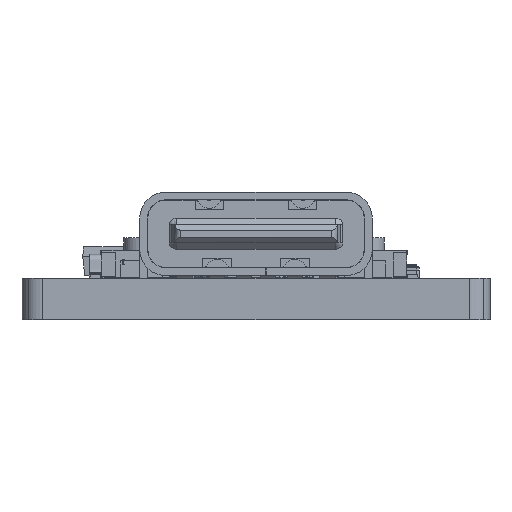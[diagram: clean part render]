
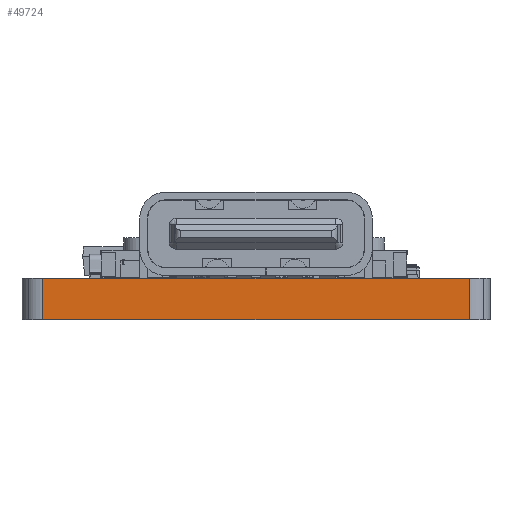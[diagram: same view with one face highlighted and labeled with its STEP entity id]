
A CAD part, front view. The second image highlights one B-rep face of the part: STEP entity #49724.
In plain terms, the highlighted planar face has unit normal (0, -1, 0).
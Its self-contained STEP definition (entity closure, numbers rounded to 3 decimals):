
#1143 = CARTESIAN_POINT ( 'NONE',  ( -8.2, -11.75, 0. ) ) ;
#1319 = VERTEX_POINT ( 'NONE', #67387 ) ;
#5641 = CARTESIAN_POINT ( 'NONE',  ( -8.2, -11.75, 0. ) ) ;
#10511 = EDGE_CURVE ( 'NONE', #85380, #42309, #85174, .T. ) ;
#17958 = DIRECTION ( 'NONE',  ( 1., 0., 0. ) ) ;
#18968 = CARTESIAN_POINT ( 'NONE',  ( 8.2, -11.75, -1.6 ) ) ;
#22081 = DIRECTION ( 'NONE',  ( -1., 0., 0. ) ) ;
#22513 = LINE ( 'NONE', #1143, #64380 ) ;
#25053 = VECTOR ( 'NONE', #17958, 1000. ) ;
#25085 = CARTESIAN_POINT ( 'NONE',  ( 8.2, -11.75, 0. ) ) ;
#29328 = DIRECTION ( 'NONE',  ( 0., 0., -1. ) ) ;
#29445 = EDGE_CURVE ( 'NONE', #1319, #85380, #32343, .T. ) ;
#31583 = LINE ( 'NONE', #88311, #25053 ) ;
#32343 = LINE ( 'NONE', #25085, #52513 ) ;
#33231 = EDGE_CURVE ( 'NONE', #79553, #1319, #31583, .T. ) ;
#39853 = PLANE ( 'NONE',  #52151 ) ;
#40748 = FACE_OUTER_BOUND ( 'NONE', #85631, .T. ) ;
#42309 = VERTEX_POINT ( 'NONE', #60470 ) ;
#49268 = VECTOR ( 'NONE', #22081, 1000. ) ;
#49355 = DIRECTION ( 'NONE',  ( 0., -1., 0. ) ) ;
#49724 = ADVANCED_FACE ( 'NONE', ( #40748 ), #39853, .T. ) ;
#52151 = AXIS2_PLACEMENT_3D ( 'NONE', #77882, #49355, #29328 ) ;
#52513 = VECTOR ( 'NONE', #60030, 1000. ) ;
#54714 = EDGE_CURVE ( 'NONE', #42309, #79553, #22513, .T. ) ;
#57064 = DIRECTION ( 'NONE',  ( 0., 0., 1. ) ) ;
#60030 = DIRECTION ( 'NONE',  ( 0., 0., -1. ) ) ;
#60470 = CARTESIAN_POINT ( 'NONE',  ( -8.2, -11.75, -1.6 ) ) ;
#63085 = ORIENTED_EDGE ( 'NONE', *, *, #54714, .F. ) ;
#64380 = VECTOR ( 'NONE', #57064, 1000. ) ;
#67387 = CARTESIAN_POINT ( 'NONE',  ( 8.2, -11.75, 0. ) ) ;
#68578 = ORIENTED_EDGE ( 'NONE', *, *, #10511, .F. ) ;
#76371 = ORIENTED_EDGE ( 'NONE', *, *, #33231, .F. ) ;
#77882 = CARTESIAN_POINT ( 'NONE',  ( 9., -11.75, 0. ) ) ;
#79553 = VERTEX_POINT ( 'NONE', #5641 ) ;
#84015 = ORIENTED_EDGE ( 'NONE', *, *, #29445, .F. ) ;
#84292 = CARTESIAN_POINT ( 'NONE',  ( -9., -11.75, -1.6 ) ) ;
#85174 = LINE ( 'NONE', #84292, #49268 ) ;
#85380 = VERTEX_POINT ( 'NONE', #18968 ) ;
#85631 = EDGE_LOOP ( 'NONE', ( #63085, #68578, #84015, #76371 ) ) ;
#88311 = CARTESIAN_POINT ( 'NONE',  ( -9., -11.75, 0. ) ) ;
